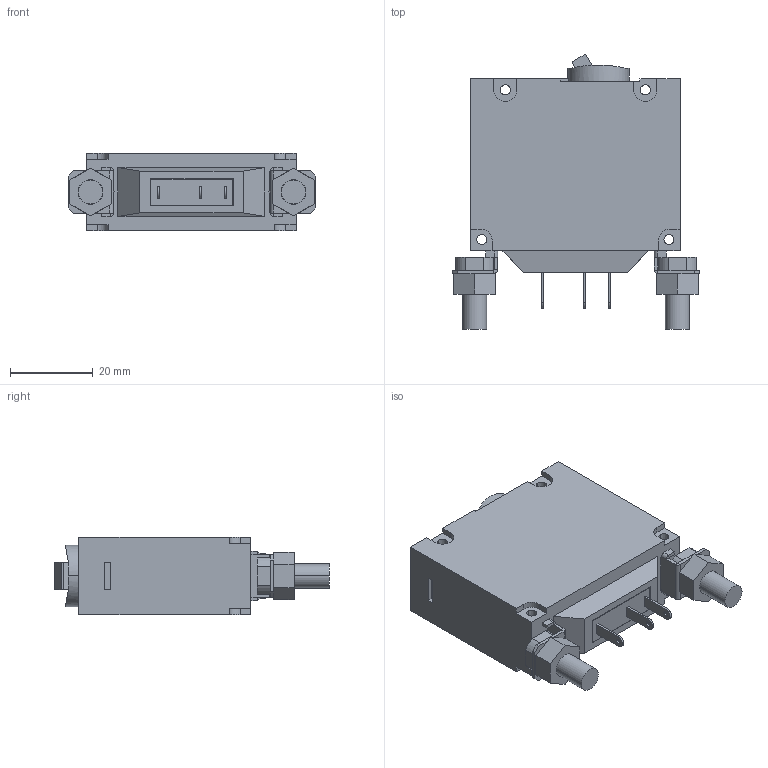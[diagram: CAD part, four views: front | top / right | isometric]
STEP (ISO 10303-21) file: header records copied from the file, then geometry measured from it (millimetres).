
FILE_DESCRIPTION((''),'2;1');
FILE_NAME('AR1-430-14-B-A0-2-M2-2','2011-05-18T',('danboyden'),(''),'PRO/ENGINEER BY PARAMETRIC TECHNOLOGY CORPORATION, 2010280','PRO/ENGINEER BY PARAMETRIC TECHNOLOGY CORPORATION, 2010280','');
FILE_SCHEMA(('CONFIG_CONTROL_DESIGN'));
Length unit declared in the file: inch
Products named in the file (1): AR1-430-14-B-A0-2-M2-2
Bounding box: 59.94 x 66.59 x 18.8 mm (x, y, z)
Volume: 19027.4 mm3; surface area: 20593.5 mm2
Topology: 3 solids, 3 shells, 868 faces, 2294 edges, 1448 vertices
Faces by surface type: plane 578, cylinder 212, cone 51, torus 13, bspline 10, sphere 4
Entity records: 27613 total; most frequent: CARTESIAN_POINT 6098, ORIENTED_EDGE 4580, DIRECTION 4266, EDGE_CURVE 2290, VECTOR 1698, LINE 1698, VERTEX_POINT 1448, AXIS2_PLACEMENT_3D 1284
